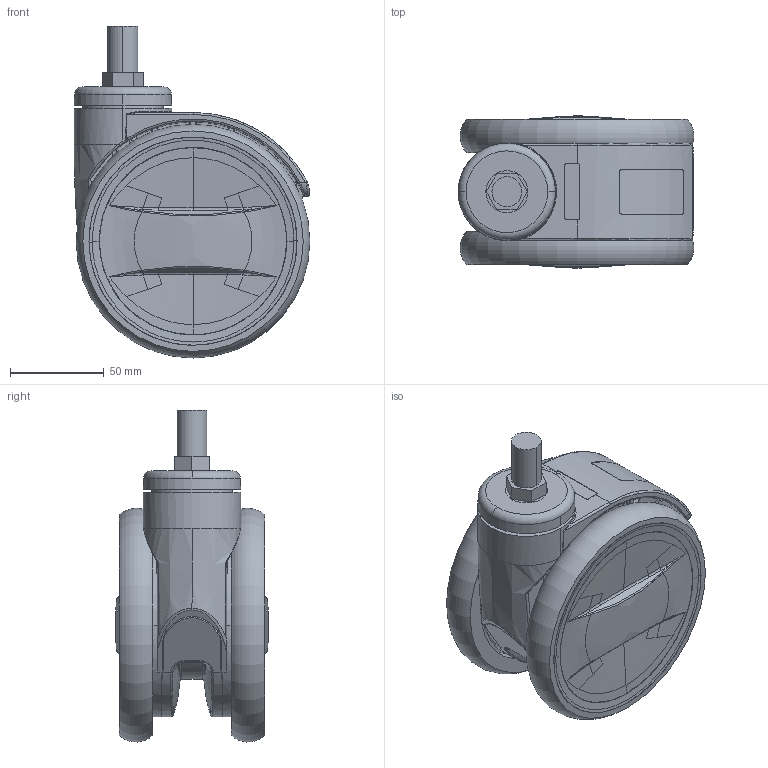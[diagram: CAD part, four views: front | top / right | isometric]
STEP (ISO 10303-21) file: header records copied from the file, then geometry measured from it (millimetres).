
FILE_DESCRIPTION(/* description */ (''),/* implementation_level */ '2;1');
FILE_NAME(/* name */ '80T23_5_F.stp',/* time_stamp */ '2022-10-17T16:02:39+08:00',/* author */ (''),/* organization */ (''),/* preprocessor_version */ 'ST-DEVELOPER v14',/* originating_system */ 'SIEMENS PLM Software NX 8.0',/* authorisation */ '');
FILE_SCHEMA (('AUTOMOTIVE_DESIGN { 1 0 10303 214 3 1 1 1 }'));
Length unit declared in the file: millimetre
Products named in the file (1): 80T23_5_F
Bounding box: 126.03 x 81.47 x 177.53 mm (x, y, z)
Volume: 537026.6 mm3; surface area: 269541.5 mm2
Topology: 3 solids, 31 shells, 3819 faces, 11055 edges, 7337 vertices
Faces by surface type: plane 1620, cylinder 1399, bspline 382, cone 317, torus 75, sphere 26
Full cylindrical faces by diameter (mm): 111.247 x2
Entity records: 156565 total; most frequent: CARTESIAN_POINT 61782, ORIENTED_EDGE 22070, DIRECTION 17205, EDGE_CURVE 11035, VERTEX_POINT 7335, AXIS2_PLACEMENT_3D 6264, LINE 4677, VECTOR 4677
